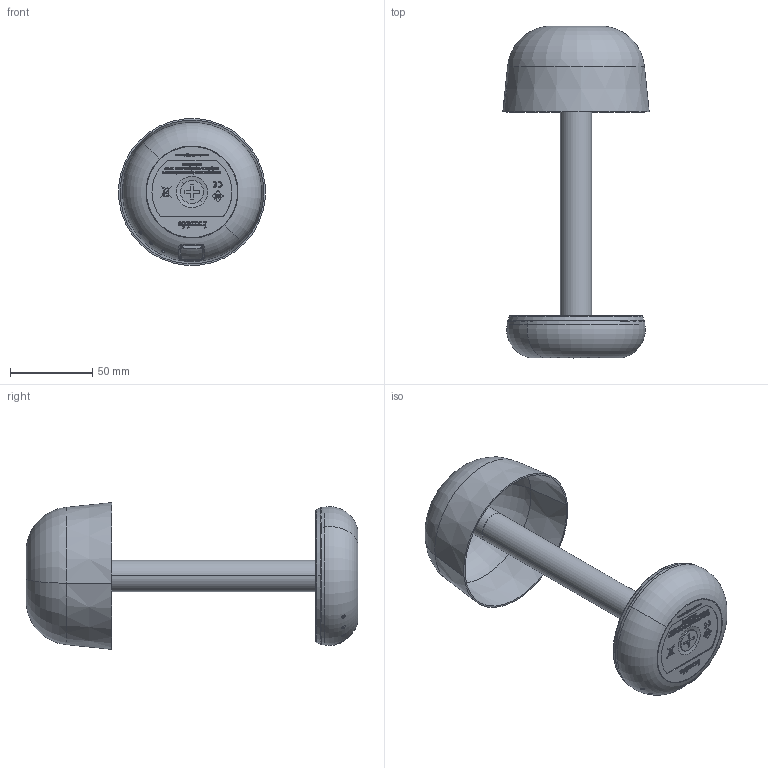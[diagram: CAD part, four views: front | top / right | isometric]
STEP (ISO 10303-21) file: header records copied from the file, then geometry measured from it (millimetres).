
FILE_DESCRIPTION (( 'STEP AP214' ), '1' );
FILE_NAME ('Humble-Two-Aluminium.STEP', '2023-07-03T15:03:17', ( '' ), ( '' ), 'SwSTEP 2.0', 'SolidWorks 2023', '' );
FILE_SCHEMA (( 'AUTOMOTIVE_DESIGN' ));
Length unit declared in the file: millimetre
Products named in the file (1): Humble-Two-Aluminium
Bounding box: 89.06 x 201.38 x 89.06 mm (x, y, z)
Volume: 148641.1 mm3; surface area: 95089.7 mm2
Topology: 9 solids, 10 shells, 2553 faces, 6830 edges, 4460 vertices
Faces by surface type: plane 1053, bspline 990, cylinder 342, torus 92, cone 53, sphere 23
Entity records: 127956 total; most frequent: CARTESIAN_POINT 53364, ORIENTED_EDGE 13614, EDGE_CURVE 6807, B_SPLINE_CURVE_WITH_KNOTS 5493, DIRECTION 4945, VERTEX_POINT 4458, EDGE_LOOP 2759, ADVANCED_FACE 2553
